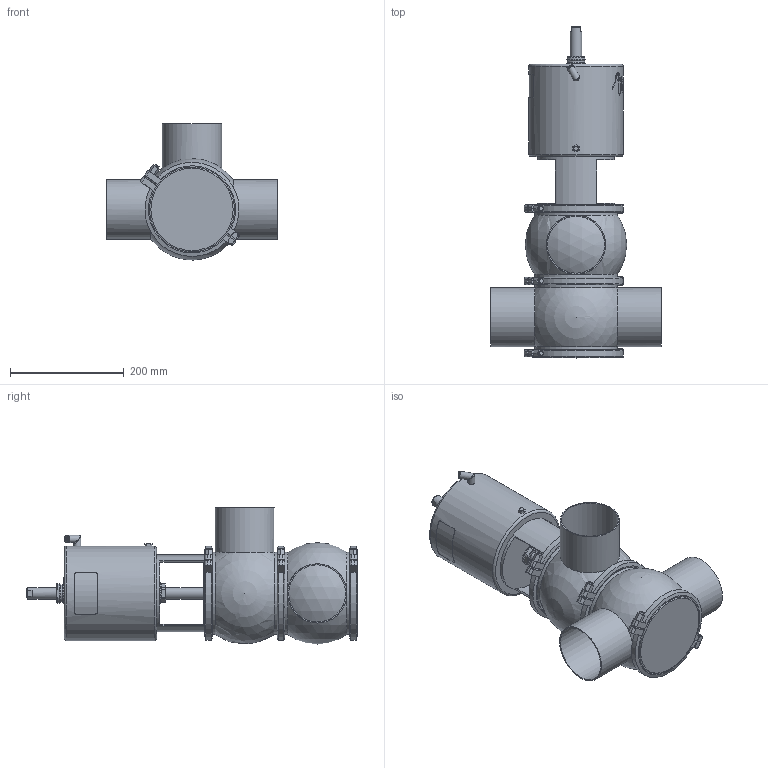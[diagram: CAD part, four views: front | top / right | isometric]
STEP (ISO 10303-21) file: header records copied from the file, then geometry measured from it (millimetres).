
FILE_DESCRIPTION (( 'STEP AP214' ), '1' );
FILE_NAME ('INNOVA M B W DIN 100 T4 AS NC_10.241.16.0004.STEP', '2024-08-07T13:07:23', ( '' ), ( '' ), 'SwSTEP 2.0', 'SolidWorks 2023', '' );
FILE_SCHEMA (( 'AUTOMOTIVE_DESIGN' ));
Length unit declared in the file: millimetre
Products named in the file (7): 10.240.15.0007_DIN 100; 10.240.15.0010_DN 100; 10.240.15.0006_DIN 100; 10.240.15.0014_T4 AS P180; 10.241.15.0001_DIN 100; INNOVA M B W DIN 100 T4 AS NC_10.241.16.0004; 10.240.15.0001_DN 100
Assembly tree (8 placements, depth 2):
  INNOVA M B W DIN 100 T4 AS NC_10.241.16.0004
    10.240.15.0006_DIN 100
    10.240.15.0007_DIN 100
    10.240.15.0010_DN 100
    10.240.15.0014_T4 AS P180
    10.240.15.0001_DN 100  x3
    10.241.15.0001_DIN 100
Bounding box: 300 x 582.5 x 239 mm (x, y, z)
Volume: 9627839.2 mm3; surface area: 728241.2 mm2
Topology: 9 solids, 9 shells, 464 faces, 1238 edges, 807 vertices
Faces by surface type: plane 226, cylinder 112, bspline 80, cone 36, sphere 6, torus 4
Full cylindrical faces by diameter (mm): 6.15 x1, 8 x7, 8.5 x1, 10.5 x1, 12.5 x3, 16 x1, 20 x2, 31 x1, 34.5 x2, 36.5 x1, 100 x3, 104 x3, 135 x1, 144.5 x5, 156.5 x6, 166 x1
Entity records: 20834 total; most frequent: CARTESIAN_POINT 11358, ORIENTED_EDGE 1646, DIRECTION 1283, EDGE_CURVE 823, VERTEX_POINT 568, AXIS2_PLACEMENT_3D 497, EDGE_LOOP 427, FACE_OUTER_BOUND 385
